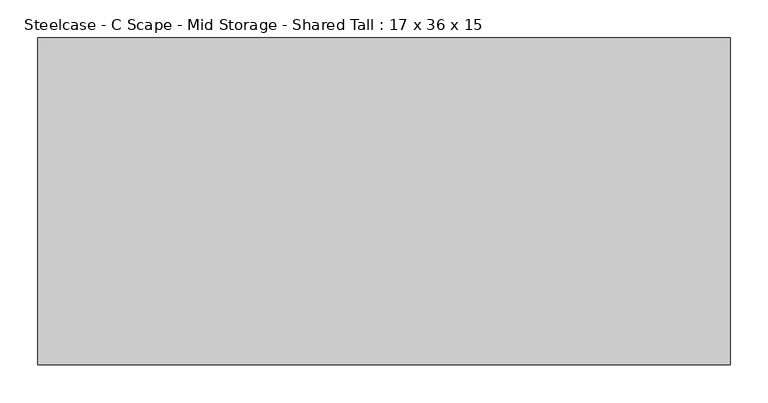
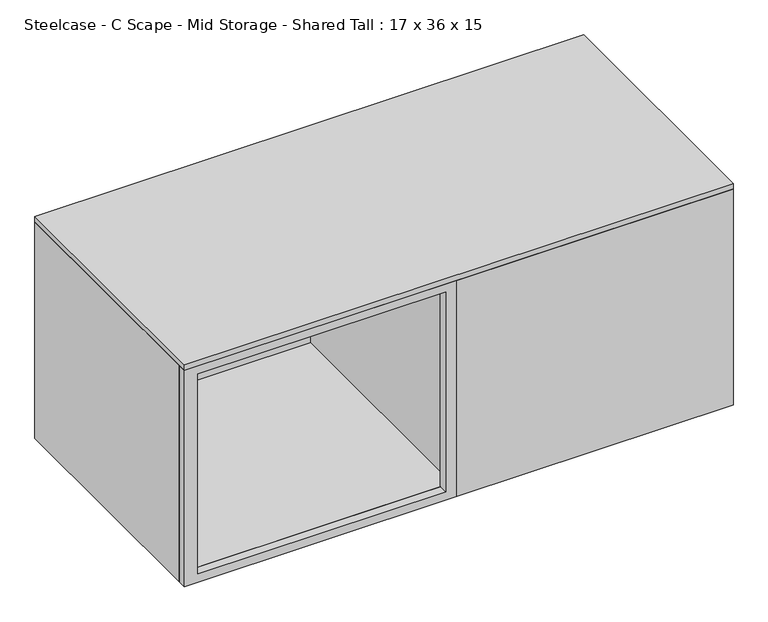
"""IFC4 building model written with IfcOpenShell, lengths in millimetres: furniture geometry, Steelcase - C Scape - Mid Storage - Shared Tall : 17 x 36 x 15."""

from ifc_helpers import new_model, si_unit, frame, origin, place, context, project, spatial, polyline, outline, extrude, faceted_brep, source, transform, mapped, element, save


def steelcase_c_scape_mid_storage_shared_tall_17_x_36_x_15_733cd759(model_context):
    return source(origin(), model_context, "Body", "SolidModel", [
        faceted_brep([(460.375, 215.9, 1219.279375), (0.0, 215.9, 1219.279375), (0.0, -201.2949309, 1219.279375), (21.9711633, -201.2949309, 1219.279375), (21.9711633, 206.3755809, 1219.279375), (454.025, 206.3755809, 1219.279375), (454.025, -215.9, 1219.279375), (914.4, -215.9, 1219.279375), (914.4, 206.3755809, 1219.279375), (892.302, 206.3755809, 1219.279375), (892.302, -201.2949309, 1219.279375), (460.375, -201.2949309, 1219.279375), (914.4, 206.3755809, 838.2), (914.4, -215.9, 838.2), (454.025, -215.9, 838.2), (454.025, -201.2949309, 838.2), (0.0, -201.2949309, 838.2), (0.0, 215.9, 838.2), (460.375, 215.9, 838.2), (460.375, 206.3755809, 838.2), (454.025, -201.2949309, 853.4399855), (21.9711633, -201.2949309, 853.4399855), (21.9711633, 206.3755809, 853.4399855), (454.025, 206.3755809, 853.4399855), (460.375, 206.3755809, 853.4399855), (892.302, 206.3755809, 853.4399855), (892.302, -201.2949309, 853.4399855), (460.375, -201.2949309, 853.4399855)], [[[0, 1, 2, 3, 4, 5, 6, 7, 8, 9, 10, 11]], [[12, 13, 14, 15, 16, 17, 18, 19]], [[1, 0, 18, 17]], [[2, 1, 17, 16]], [[3, 2, 16, 15, 20, 21]], [[4, 3, 21, 22]], [[5, 4, 22, 23]], [[6, 5, 23, 20, 15, 14]], [[7, 6, 14, 13]], [[8, 7, 13, 12]], [[9, 8, 12, 19, 24, 25]], [[10, 9, 25, 26]], [[11, 10, 26, 27]], [[0, 11, 27, 24, 19, 18]], [[21, 20, 23, 22]], [[25, 24, 27, 26]]]),
        extrude(outline(polyline([(1219.279375, 914.4), (1219.279375, 460.375), (838.2, 460.375), (838.2, 914.4), (1219.279375, 914.4)]), holes=[polyline([(1205.8427824, 892.302), (853.4399855, 892.302), (853.4399855, 479.298), (1205.8427824, 479.298), (1205.8427824, 892.302)])]), frame((0.0, 206.3755809, 0.0), z_axis=(0.0, 1.0, 0.0), x_axis=(0.0, 0.0, 1.0)), (0.0, 0.0, 1.0), 9.5244191),
        extrude(outline(polyline([(1219.279375, 454.025), (1219.279375, 0.0), (838.2, 0.0), (838.2, 454.025), (1219.279375, 454.025)]), holes=[polyline([(1205.8427824, 435.102), (853.4399855, 435.102), (853.4399855, 21.9711633), (1205.8427824, 21.9711633), (1205.8427824, 435.102)])]), frame((0.0, -215.9, 0.0), z_axis=(0.0, 1.0, 0.0), x_axis=(0.0, 0.0, 1.0)), (0.0, 0.0, 1.0), 14.6050691),
        extrude(outline(polyline([(914.4, -215.9), (0.0, -215.9), (0.0, 215.9), (914.4, 215.9), (914.4, -215.9)])), frame((0.0, 0.0, 1219.279375), z_axis=(0.0, 0.0, 1.0), x_axis=(1.0, 0.0, 0.0)), (0.0, 0.0, 1.0), 10.080625),
    ])


if __name__ == "__main__":
    model = new_model("IFC4")
    model_context = context("Model", 3, world=origin())
    ifc_project = project(units=[si_unit("LENGTHUNIT", "METRE", prefix="MILLI")], contexts=[model_context])
    site = spatial("IfcSite", under=ifc_project)
    building = spatial("IfcBuilding", under=site)
    placement = place(None, origin())
    steelcase_c_scape_mid_storage_shared_tall_17_x_36_x_15_shape = steelcase_c_scape_mid_storage_shared_tall_17_x_36_x_15_733cd759(model_context)
    element("IfcFurniture", 1, ObjectType="Steelcase - C Scape - Mid Storage - Shared Tall : 17 x 36 x 15", at=placement, inside=building, context=model_context, shape_type="MappedRepresentation", body=[
        mapped(steelcase_c_scape_mid_storage_shared_tall_17_x_36_x_15_shape, transform((0.0, 0.0, 0.0), x_axis=(1.0, 0.0, 0.0), y_axis=(0.0, 1.0, 0.0), z_axis=(0.0, 0.0, 1.0))),
    ])
    save(model, "model.ifc")
